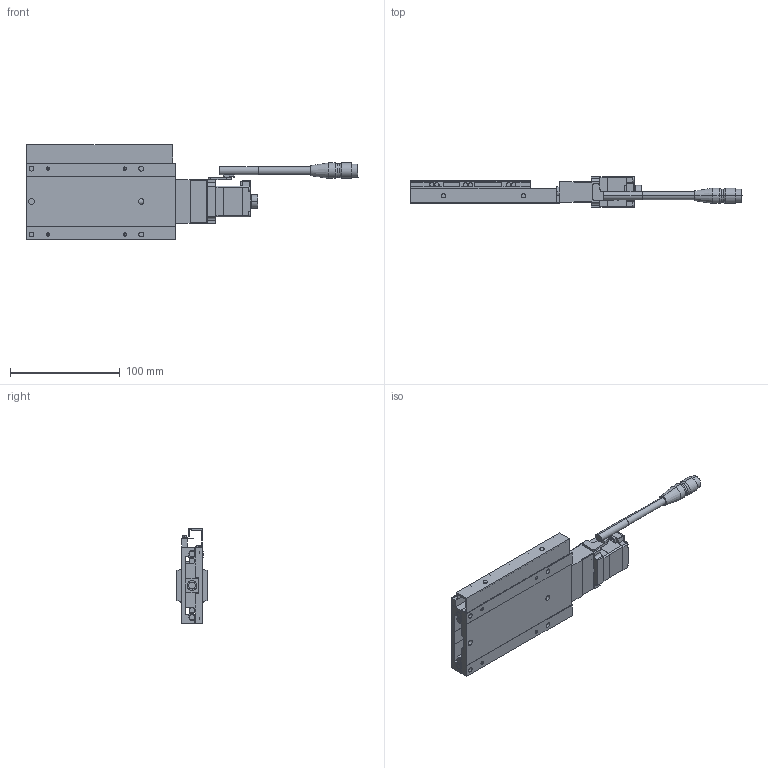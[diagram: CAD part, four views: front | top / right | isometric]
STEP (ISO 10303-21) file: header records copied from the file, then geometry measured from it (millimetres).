
FILE_DESCRIPTION(('STEP AP203'),'1');
FILE_NAME('C:/3D-Trans/3D_PG750T-L□-E+241108.step','2024-11-08T04:22:20',(' '),(' '),'Spatial InterOp 3D',' ',' ');
FILE_SCHEMA(('CONFIG_CONTROL_DESIGN'));
Length unit declared in the file: millimetre
Products named in the file (6): 1; 2; 3; 4; 5; 6
Bounding box: 302.5 x 28 x 87.4 mm (x, y, z)
Volume: 185653.4 mm3; surface area: 84759.5 mm2
Topology: 6 solids, 6 shells, 639 faces, 1620 edges, 1021 vertices
Faces by surface type: plane 359, cylinder 198, cone 82
Entity records: 19337 total; most frequent: DIRECTION 3393, CARTESIAN_POINT 3272, ORIENTED_EDGE 3200, EDGE_CURVE 1600, AXIS2_PLACEMENT_3D 1150, LINE 1093, VECTOR 1093, VERTEX_POINT 1021
